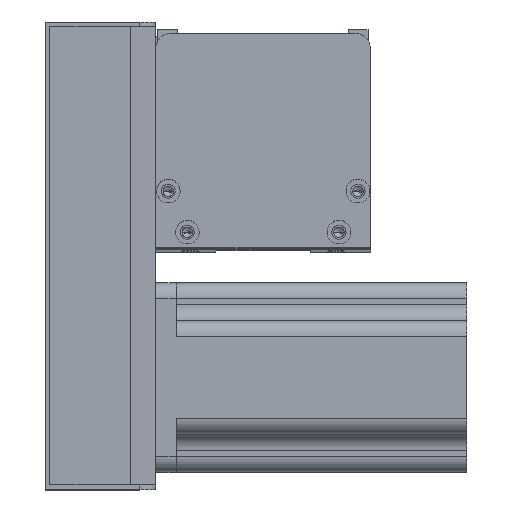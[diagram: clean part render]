
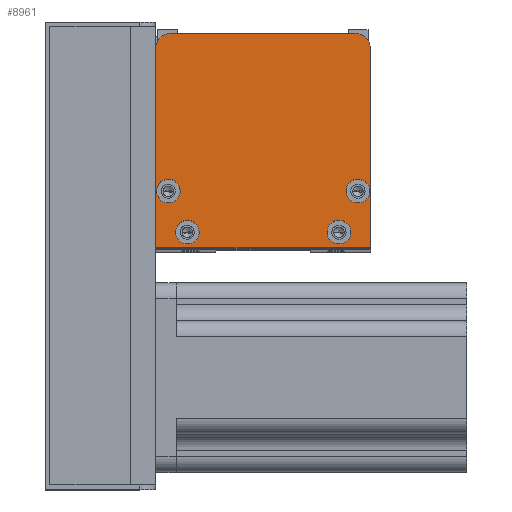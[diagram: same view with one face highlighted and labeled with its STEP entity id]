
A CAD part, top view. The second image highlights one B-rep face of the part: STEP entity #8961.
In plain terms, the highlighted planar face has unit normal (0, 0, 1) as drawn and (0, 0, -1) by its records, which use the part's own axes.
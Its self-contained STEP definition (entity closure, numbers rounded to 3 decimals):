
#345 = EDGE_LOOP ( 'NONE', ( #7124, #5807 ) ) ;
#504 = CARTESIAN_POINT ( 'NONE',  ( 61.75, 5., 0. ) ) ;
#774 = AXIS2_PLACEMENT_3D ( 'NONE', #7925, #26535, #10146 ) ;
#822 = DIRECTION ( 'NONE',  ( 0., 0., 1. ) ) ;
#1183 = ORIENTED_EDGE ( 'NONE', *, *, #13813, .F. ) ;
#1209 = EDGE_CURVE ( 'NONE', #5520, #16298, #18770, .T. ) ;
#1934 = FACE_OUTER_BOUND ( 'NONE', #22396, .T. ) ;
#2088 = AXIS2_PLACEMENT_3D ( 'NONE', #14623, #6553, #8353 ) ;
#2157 = CIRCLE ( 'NONE', #2088, 3.75 ) ;
#2306 = CARTESIAN_POINT ( 'NONE',  ( 10., 5., 0. ) ) ;
#2603 = CARTESIAN_POINT ( 'NONE',  ( 54.25, 5., 0. ) ) ;
#2748 = CIRCLE ( 'NONE', #774, 3.75 ) ;
#2889 = DIRECTION ( 'NONE',  ( 1., 0., 0. ) ) ;
#2911 = CARTESIAN_POINT ( 'NONE',  ( 64., 18., 0. ) ) ;
#2977 = EDGE_LOOP ( 'NONE', ( #4158, #7402 ) ) ;
#3067 = EDGE_CURVE ( 'NONE', #5520, #9746, #9652, .T. ) ;
#3703 = PLANE ( 'NONE',  #20602 ) ;
#3710 = VERTEX_POINT ( 'NONE', #25182 ) ;
#3865 = ORIENTED_EDGE ( 'NONE', *, *, #12723, .F. ) ;
#4028 = CARTESIAN_POINT ( 'NONE',  ( 5., 63., 0. ) ) ;
#4158 = ORIENTED_EDGE ( 'NONE', *, *, #16387, .F. ) ;
#4237 = DIRECTION ( 'NONE',  ( 0., 0., -1. ) ) ;
#4368 = VERTEX_POINT ( 'NONE', #24977 ) ;
#4464 = AXIS2_PLACEMENT_3D ( 'NONE', #2911, #19358, #17188 ) ;
#5203 = VERTEX_POINT ( 'NONE', #23394 ) ;
#5213 = EDGE_CURVE ( 'NONE', #3710, #13220, #18598, .T. ) ;
#5287 = CARTESIAN_POINT ( 'NONE',  ( 10., 5., 0. ) ) ;
#5290 = CARTESIAN_POINT ( 'NONE',  ( 0., 63., 0. ) ) ;
#5515 = EDGE_CURVE ( 'NONE', #25571, #9746, #6023, .T. ) ;
#5520 = VERTEX_POINT ( 'NONE', #7922 ) ;
#5591 = EDGE_CURVE ( 'NONE', #19575, #10550, #2157, .T. ) ;
#5807 = ORIENTED_EDGE ( 'NONE', *, *, #5213, .F. ) ;
#6023 = CIRCLE ( 'NONE', #13760, 5. ) ;
#6041 = CIRCLE ( 'NONE', #24951, 3.75 ) ;
#6103 = DIRECTION ( 'NONE',  ( 1., 0., 0. ) ) ;
#6456 = FACE_BOUND ( 'NONE', #14559, .T. ) ;
#6553 = DIRECTION ( 'NONE',  ( 0., 0., -1. ) ) ;
#6781 = CARTESIAN_POINT ( 'NONE',  ( 68., 0., 0. ) ) ;
#6940 = CARTESIAN_POINT ( 'NONE',  ( 67.75, 18., 0. ) ) ;
#6954 = CIRCLE ( 'NONE', #9551, 3.75 ) ;
#7029 = CIRCLE ( 'NONE', #4464, 3.75 ) ;
#7104 = DIRECTION ( 'NONE',  ( -1., 0., 0. ) ) ;
#7124 = ORIENTED_EDGE ( 'NONE', *, *, #26437, .F. ) ;
#7210 = CIRCLE ( 'NONE', #20480, 3.75 ) ;
#7374 = CARTESIAN_POINT ( 'NONE',  ( 0., 0., 0. ) ) ;
#7396 = FACE_BOUND ( 'NONE', #11808, .T. ) ;
#7402 = ORIENTED_EDGE ( 'NONE', *, *, #20942, .F. ) ;
#7913 = CARTESIAN_POINT ( 'NONE',  ( 68., 0., 0. ) ) ;
#7922 = CARTESIAN_POINT ( 'NONE',  ( 63., 68., 0. ) ) ;
#7925 = CARTESIAN_POINT ( 'NONE',  ( 4., 18., 0. ) ) ;
#8060 = FACE_BOUND ( 'NONE', #2977, .T. ) ;
#8353 = DIRECTION ( 'NONE',  ( -1., 0., 0. ) ) ;
#8415 = AXIS2_PLACEMENT_3D ( 'NONE', #5287, #19686, #7104 ) ;
#8961 = ADVANCED_FACE ( 'NONE', ( #8060, #6456, #12849, #7396, #1934 ), #3703, .F. ) ;
#9008 = VECTOR ( 'NONE', #18652, 1000. ) ;
#9551 = AXIS2_PLACEMENT_3D ( 'NONE', #2306, #16497, #20652 ) ;
#9652 = LINE ( 'NONE', #24875, #9008 ) ;
#9746 = VERTEX_POINT ( 'NONE', #18499 ) ;
#9987 = VERTEX_POINT ( 'NONE', #6781 ) ;
#10137 = DIRECTION ( 'NONE',  ( 0., 1., 0. ) ) ;
#10146 = DIRECTION ( 'NONE',  ( -1., 0., 0. ) ) ;
#10387 = EDGE_CURVE ( 'NONE', #10550, #19575, #6041, .T. ) ;
#10442 = AXIS2_PLACEMENT_3D ( 'NONE', #11376, #20036, #19671 ) ;
#10550 = VERTEX_POINT ( 'NONE', #504 ) ;
#10746 = LINE ( 'NONE', #15432, #23018 ) ;
#10815 = CARTESIAN_POINT ( 'NONE',  ( 64., 18., 0. ) ) ;
#11279 = CIRCLE ( 'NONE', #15094, 3.75 ) ;
#11376 = CARTESIAN_POINT ( 'NONE',  ( 63., 63., 0. ) ) ;
#11732 = VERTEX_POINT ( 'NONE', #25968 ) ;
#11808 = EDGE_LOOP ( 'NONE', ( #11877, #19194 ) ) ;
#11877 = ORIENTED_EDGE ( 'NONE', *, *, #5591, .F. ) ;
#12456 = DIRECTION ( 'NONE',  ( 0., 0., -1. ) ) ;
#12642 = CARTESIAN_POINT ( 'NONE',  ( 0., 0., 0. ) ) ;
#12723 = EDGE_CURVE ( 'NONE', #25904, #9987, #10746, .T. ) ;
#12849 = FACE_BOUND ( 'NONE', #345, .T. ) ;
#13220 = VERTEX_POINT ( 'NONE', #13955 ) ;
#13760 = AXIS2_PLACEMENT_3D ( 'NONE', #4028, #18436, #6103 ) ;
#13813 = EDGE_CURVE ( 'NONE', #25571, #25904, #22264, .T. ) ;
#13955 = CARTESIAN_POINT ( 'NONE',  ( 6.25, 5., 0. ) ) ;
#14559 = EDGE_LOOP ( 'NONE', ( #23400, #21801 ) ) ;
#14609 = DIRECTION ( 'NONE',  ( -1., 0., 0. ) ) ;
#14623 = CARTESIAN_POINT ( 'NONE',  ( 58., 5., 0. ) ) ;
#14753 = EDGE_CURVE ( 'NONE', #4368, #11732, #11279, .T. ) ;
#15094 = AXIS2_PLACEMENT_3D ( 'NONE', #25376, #4237, #18634 ) ;
#15432 = CARTESIAN_POINT ( 'NONE',  ( 68., 0., 0. ) ) ;
#16298 = VERTEX_POINT ( 'NONE', #21428 ) ;
#16387 = EDGE_CURVE ( 'NONE', #5203, #20290, #7029, .T. ) ;
#16497 = DIRECTION ( 'NONE',  ( 0., 0., -1. ) ) ;
#16506 = CARTESIAN_POINT ( 'NONE',  ( 58., 5., 0. ) ) ;
#17188 = DIRECTION ( 'NONE',  ( -1., 0., 0. ) ) ;
#17234 = DIRECTION ( 'NONE',  ( 1., 0., 0. ) ) ;
#18436 = DIRECTION ( 'NONE',  ( 0., 0., -1. ) ) ;
#18477 = CARTESIAN_POINT ( 'NONE',  ( 0., 0., 0. ) ) ;
#18499 = CARTESIAN_POINT ( 'NONE',  ( 5., 68., 0. ) ) ;
#18598 = CIRCLE ( 'NONE', #8415, 3.75 ) ;
#18634 = DIRECTION ( 'NONE',  ( -1., 0., 0. ) ) ;
#18652 = DIRECTION ( 'NONE',  ( -1., 0., 0. ) ) ;
#18770 = CIRCLE ( 'NONE', #10442, 5. ) ;
#19194 = ORIENTED_EDGE ( 'NONE', *, *, #10387, .F. ) ;
#19210 = DIRECTION ( 'NONE',  ( 0., 0., -1. ) ) ;
#19358 = DIRECTION ( 'NONE',  ( 0., 0., -1. ) ) ;
#19575 = VERTEX_POINT ( 'NONE', #2603 ) ;
#19596 = DIRECTION ( 'NONE',  ( 0., -1., 0. ) ) ;
#19650 = ORIENTED_EDGE ( 'NONE', *, *, #3067, .F. ) ;
#19671 = DIRECTION ( 'NONE',  ( 1., 0., 0. ) ) ;
#19686 = DIRECTION ( 'NONE',  ( 0., 0., -1. ) ) ;
#20036 = DIRECTION ( 'NONE',  ( 0., 0., -1. ) ) ;
#20290 = VERTEX_POINT ( 'NONE', #6940 ) ;
#20480 = AXIS2_PLACEMENT_3D ( 'NONE', #10815, #19210, #21274 ) ;
#20602 = AXIS2_PLACEMENT_3D ( 'NONE', #18477, #822, #2889 ) ;
#20635 = EDGE_CURVE ( 'NONE', #9987, #16298, #22377, .T. ) ;
#20652 = DIRECTION ( 'NONE',  ( -1., 0., 0. ) ) ;
#20942 = EDGE_CURVE ( 'NONE', #20290, #5203, #7210, .T. ) ;
#21274 = DIRECTION ( 'NONE',  ( -1., 0., 0. ) ) ;
#21428 = CARTESIAN_POINT ( 'NONE',  ( 68., 63., 0. ) ) ;
#21801 = ORIENTED_EDGE ( 'NONE', *, *, #25848, .F. ) ;
#22055 = VECTOR ( 'NONE', #10137, 1000. ) ;
#22238 = ORIENTED_EDGE ( 'NONE', *, *, #20635, .F. ) ;
#22264 = LINE ( 'NONE', #7374, #24519 ) ;
#22377 = LINE ( 'NONE', #7913, #22055 ) ;
#22396 = EDGE_LOOP ( 'NONE', ( #1183, #24123, #19650, #24014, #22238, #3865 ) ) ;
#23018 = VECTOR ( 'NONE', #17234, 1000. ) ;
#23394 = CARTESIAN_POINT ( 'NONE',  ( 60.25, 18., 0. ) ) ;
#23400 = ORIENTED_EDGE ( 'NONE', *, *, #14753, .F. ) ;
#24014 = ORIENTED_EDGE ( 'NONE', *, *, #1209, .T. ) ;
#24123 = ORIENTED_EDGE ( 'NONE', *, *, #5515, .T. ) ;
#24519 = VECTOR ( 'NONE', #19596, 1000. ) ;
#24875 = CARTESIAN_POINT ( 'NONE',  ( 68., 68., 0. ) ) ;
#24951 = AXIS2_PLACEMENT_3D ( 'NONE', #16506, #12456, #14609 ) ;
#24977 = CARTESIAN_POINT ( 'NONE',  ( 0.25, 18., 0. ) ) ;
#25182 = CARTESIAN_POINT ( 'NONE',  ( 13.75, 5., 0. ) ) ;
#25376 = CARTESIAN_POINT ( 'NONE',  ( 4., 18., 0. ) ) ;
#25571 = VERTEX_POINT ( 'NONE', #5290 ) ;
#25848 = EDGE_CURVE ( 'NONE', #11732, #4368, #2748, .T. ) ;
#25904 = VERTEX_POINT ( 'NONE', #12642 ) ;
#25968 = CARTESIAN_POINT ( 'NONE',  ( 7.75, 18., 0. ) ) ;
#26437 = EDGE_CURVE ( 'NONE', #13220, #3710, #6954, .T. ) ;
#26535 = DIRECTION ( 'NONE',  ( 0., 0., -1. ) ) ;
